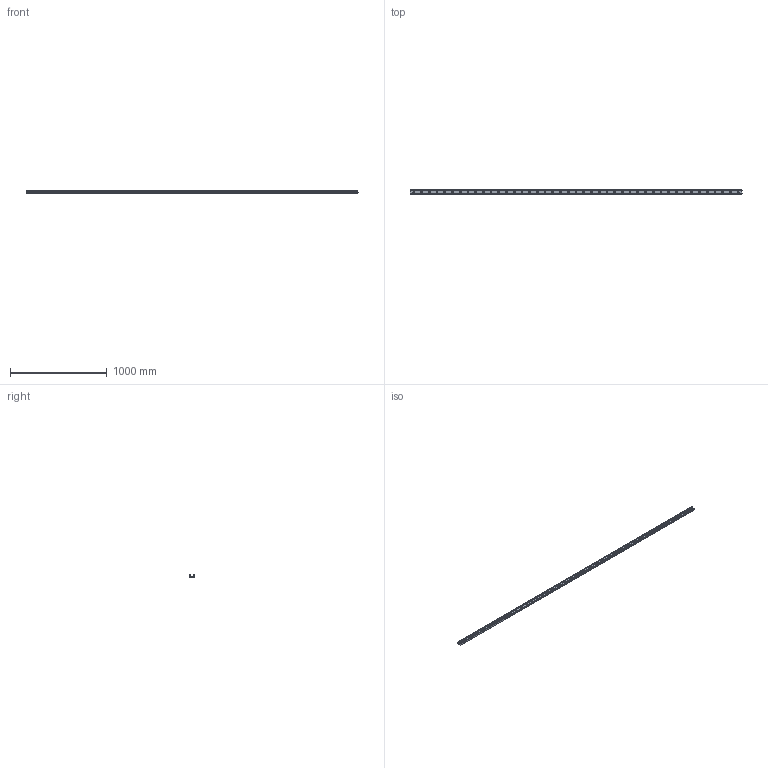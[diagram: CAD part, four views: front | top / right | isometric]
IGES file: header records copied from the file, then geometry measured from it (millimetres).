
Start section: SolidWorks IGES file using analytic representation for surfaces
Global section: file name: C:\Users\IanO\Desktop\43\L1943.ULC43_v2_20180121_IGES\L1943.ULC43-3440.igs; native system: SolidWorks 2017; preprocessor: SolidWorks 2017; author: IanO; date: 190121.085310; units: millimetre
Bounding box: 3440 x 43 x 21 mm (x, y, z)
Surface area: 539363.5 mm2 (no closed solid volume)
Topology: 0 solids, 0 shells, 241 faces, 6486 edges, 6486 vertices
Faces by surface type: revolution 185, bspline 56
